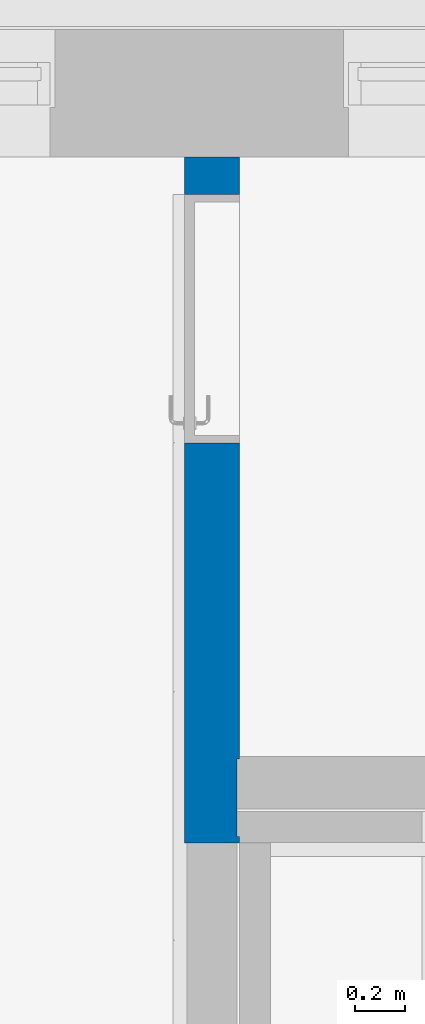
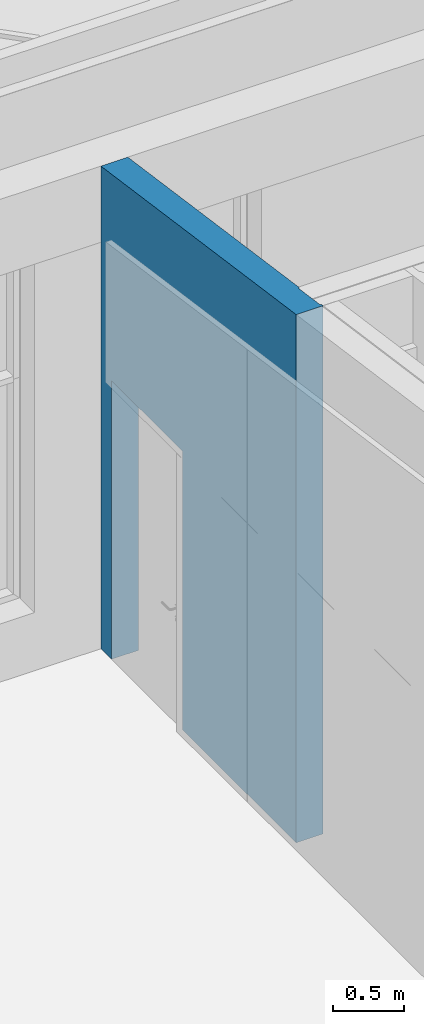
# One storey, part 129 of 246: 1 wall, 1 opening.
"""IFC2X3 building model written with IfcOpenShell, lengths in millimetres."""

from ifc_helpers import new_model, entity, si_unit, converted_unit, derived_unit, money_unit, direction, frame, origin_with_axes, place, context, subcontext, project, spatial, faceted_brep, material, material_list, type_object, element, save


model = new_model("IFC2X3")

# Units and contexts
model_context = context("Model", 3, precision=0.01, world=origin_with_axes(), true_north=direction((0.0, 1.0)))
body_context = subcontext(model_context, "Body", "Model", "MODEL_VIEW")
ifc_project = project(units=[si_unit("LENGTHUNIT", "METRE", prefix="MILLI"), si_unit("AREAUNIT", "SQUARE_METRE"), si_unit("VOLUMEUNIT", "CUBIC_METRE"), converted_unit("PLANEANGLEUNIT", "DEGREE", entity("IfcPlaneAngleMeasure", 0.0174532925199), si_unit("PLANEANGLEUNIT", "RADIAN"), dimensions=[0, 0, 0, 0, 0, 0, 0]), si_unit("SOLIDANGLEUNIT", "STERADIAN"), money_unit("EUR"), converted_unit("TIMEUNIT", "Year", entity("IfcTimeMeasure", 31556926.0), si_unit("TIMEUNIT", "SECOND"), dimensions=[0, 0, 1, 0, 0, 0, 0]), si_unit("MASSUNIT", "GRAM", prefix="KILO"), si_unit("THERMODYNAMICTEMPERATUREUNIT", "DEGREE_CELSIUS"), si_unit("LUMINOUSINTENSITYUNIT", "LUMEN"), si_unit("ENERGYUNIT", "JOULE", prefix="MEGA"), derived_unit("THERMALCONDUCTANCEUNIT", [(si_unit("POWERUNIT", "WATT"), 1), (si_unit("LENGTHUNIT", "METRE"), -1), (si_unit("THERMODYNAMICTEMPERATUREUNIT", "KELVIN"), -1)]), derived_unit("SPECIFICHEATCAPACITYUNIT", [(si_unit("ENERGYUNIT", "JOULE"), 1), (si_unit("MASSUNIT", "GRAM", prefix="KILO"), -1), (si_unit("THERMODYNAMICTEMPERATUREUNIT", "KELVIN"), -1)]), derived_unit("MASSDENSITYUNIT", [(si_unit("MASSUNIT", "GRAM", prefix="KILO"), 1), (si_unit("VOLUMEUNIT", "CUBIC_METRE"), -1)])], contexts=[model_context])

# Site, building, storey
site_placement = place(None, origin_with_axes())
site = spatial("IfcSite", under=ifc_project, at=site_placement, Name="L.Koidula tn 11b", CompositionType="ELEMENT")
building_placement = place(site_placement, origin_with_axes())
building = spatial("IfcBuilding", under=site, at=building_placement, Name="Rakvere Riigigümnaasium", CompositionType="ELEMENT")
storey_placement = place(building_placement, origin_with_axes())
storey = spatial("IfcBuildingStorey", under=building, at=storey_placement, Name="1.korrus 0,00", CompositionType="ELEMENT", Elevation=0.0)

# Wall, opening
ifc_material_1 = material(Name="siseviimistlus-seinad")
ifc_material_2 = material(Name="Betoon element / plaat")
ifc_material_list = material_list([ifc_material_1, ifc_material_2, ifc_material_1])
wall_type = type_object("IfcWallType", Name="SS-01-2 220", PredefinedType="NOTDEFINED")
wall_placement = place(storey_placement, frame((36919.9971542, 71600.4516838, 0.0), z_axis=(0.0, 0.0, 1.0), x_axis=(0.0, -1.0, 0.0)))
wall = element("IfcWall", 1, at=wall_placement, inside=storey, type_object=wall_type, material=ifc_material_list, Name="Sisesein", context=body_context, shape_type="Brep", body=[
    faceted_brep([(0.0, 200.000012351, 4156.68650642), (0.0, 209.999994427, 4156.68650636), (0.0, 209.999994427, 3573.97480983), (0.0, 210.0, 0.0), (0.0, 200.0, 0.0), (2420.02038252, 209.999999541, 4501.10641042), (2420.02038252, 200.000001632, 4501.10641048), (2420.02038252, 210.0, 0.0), (1149.86082702, 210.0, 0.0), (1149.86082702, 210.0, 2400.0), (149.860826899, 210.0, 2400.0), (149.860826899, 210.0, 0.0), (149.860826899, 200.0, 0.0), (149.860826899, 200.000019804, 2400.0), (1149.86082702, 200.000019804, 2400.0), (1149.86082702, 200.0, 0.0), (2420.02038252, 200.0, 0.0)], [[[0, 1, 2, 3, 4]], [[5, 1, 0, 6]], [[1, 5, 7, 8, 9, 10, 11, 3, 2]], [[3, 11, 12, 4]], [[6, 0, 4, 12, 13, 14, 15, 16]], [[5, 6, 16, 7]], [[16, 15, 8, 7]], [[14, 9, 8, 15]], [[13, 10, 9, 14]], [[12, 11, 10, 13]]]),
    faceted_brep([(2730.02038252, 200.000000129, 4545.22594395), (2730.02038252, 209.999999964, 4545.22594389), (2730.02038252, 210.0, 0.0), (2730.02038252, 200.0, 0.0), (2756.32038252, 210.0, 4548.96898818), (2756.32038252, 200.0, 4548.96898824), (2756.32038252, 210.0, 0.0), (2756.32038252, 200.0, 0.0)], [[[0, 1, 2, 3]], [[4, 1, 0, 5]], [[1, 4, 6, 2]], [[3, 2, 6, 7]], [[5, 0, 3, 7]], [[4, 5, 7, 6]]]),
    faceted_brep([(0.0, 1.2899143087e-05, 4156.68650755), (0.0, 200.000012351, 4156.68650642), (0.0, 200.0, 0.0), (0.0, 0.0, 0.0), (2756.32038252, 200.0, 4548.96898824), (2756.32038252, 0.0, 4548.96898937), (2756.32038252, 200.0, 0.0), (1149.86082702, 200.0, 0.0), (1149.86082702, 200.0, 2400.0), (149.860826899, 200.0, 2400.0), (149.860826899, 200.0, 0.0), (149.860826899, 0.0, 0.0), (149.860826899, 0.0, 2400.0), (1149.86082702, 0.0, 2400.0), (1149.86082702, 0.0, 0.0), (2756.32038252, 0.0, 0.0)], [[[0, 1, 2, 3]], [[4, 1, 0, 5]], [[1, 4, 6, 7, 8, 9, 10, 2]], [[10, 11, 3, 2]], [[5, 0, 3, 11, 12, 13, 14, 15]], [[4, 5, 15, 6]], [[15, 14, 7, 6]], [[7, 14, 13, 8]], [[9, 8, 13, 12]], [[10, 9, 12, 11]]]),
    faceted_brep([(0.0, -10.0000087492, 4156.6865076), (0.0, 1.2899143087e-05, 4156.68650755), (0.0, 0.0, 0.0), (0.0, -10.0, 0.0), (0.0, -10.0, 3573.97480983), (2756.32038252, 0.0, 4548.96898937), (2756.32038252, -10.0000087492, 4548.96898943), (2756.32038252, 0.0, 0.0), (1149.86082702, 0.0, 0.0), (1149.86082702, 0.0, 2400.0), (149.860826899, 0.0, 2400.0), (149.860826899, 0.0, 0.0), (149.860826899, -10.0, 0.0), (149.860826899, -10.0, 2400.0), (1149.86082702, -10.0, 2400.0), (1149.86082702, -10.0, 0.0), (2756.32038252, -10.0, 0.0)], [[[0, 1, 2, 3, 4]], [[5, 1, 0, 6]], [[1, 5, 7, 8, 9, 10, 11, 2]], [[3, 2, 11, 12]], [[6, 0, 4, 3, 12, 13, 14, 15, 16]], [[5, 6, 16, 7]], [[7, 16, 15, 8]], [[15, 14, 9, 8]], [[14, 13, 10, 9]], [[13, 12, 11, 10]]]),
])
opening_placement = place(wall_placement, frame((649.860826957, 0.0, 0.0), z_axis=(0.0, 0.0, 1.0), x_axis=(1.0, 0.0, 0.0)))
element("IfcOpeningElement", 2, at=opening_placement, cuts=wall, Name="SU-001", context=body_context, shape_type="Brep", body=[
    faceted_brep([(-500.000000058, 30.0, 0.0), (-500.000000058, 30.0, 2400.0), (-500.000000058, 430.0, 2400.0), (-500.000000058, 430.0, 0.0), (500.000000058, 30.0, 0.0), (500.000000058, 30.0, 2400.0), (500.000000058, 430.0, 2400.0), (500.000000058, 430.0, 0.0)], [[[0, 1, 2, 3]], [[0, 4, 5, 1]], [[1, 5, 6, 2]], [[3, 2, 6, 7]], [[4, 0, 3, 7]], [[5, 4, 7, 6]]]),
    faceted_brep([(-500.000000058, 30.0, 2400.0), (-500.000000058, 30.0, 0.0), (-500.000000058, -230.0, 0.0), (-500.000000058, -230.0, 2400.0), (500.000000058, 30.0, 2400.0), (500.000000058, 30.0, 0.0), (500.000000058, -230.0, 0.0), (500.000000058, -230.0, 2400.0)], [[[0, 1, 2, 3]], [[0, 4, 5, 1]], [[1, 5, 6, 2]], [[3, 2, 6, 7]], [[4, 0, 3, 7]], [[5, 4, 7, 6]]]),
])

save(model, "model.ifc")
